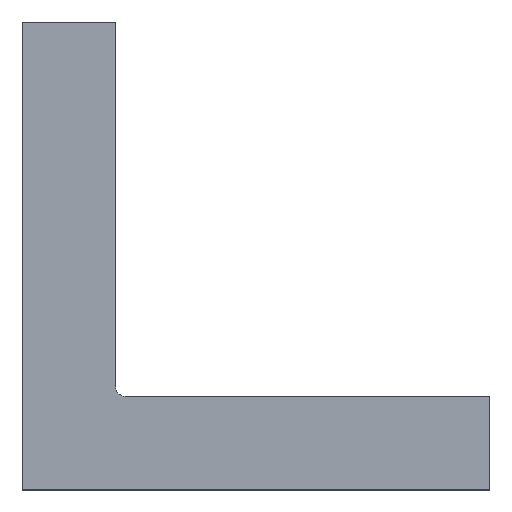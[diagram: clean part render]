
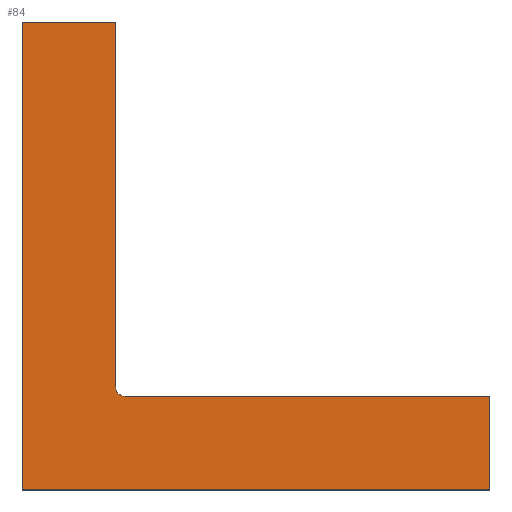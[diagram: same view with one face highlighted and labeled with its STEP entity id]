
A CAD part, top view. The second image highlights one B-rep face of the part: STEP entity #84.
In plain terms, the highlighted planar face has unit normal (0, 0, 1).
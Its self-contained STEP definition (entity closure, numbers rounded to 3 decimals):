
#5 = ORIENTED_EDGE ( 'NONE', *, *, #290, .T. ) ;
#7 = VERTEX_POINT ( 'NONE', #80 ) ;
#8 = VERTEX_POINT ( 'NONE', #33 ) ;
#11 = DIRECTION ( 'NONE',  ( 0., 0., -1. ) ) ;
#17 = DIRECTION ( 'NONE',  ( -1., 0., 0. ) ) ;
#30 = ORIENTED_EDGE ( 'NONE', *, *, #217, .T. ) ;
#33 = CARTESIAN_POINT ( 'NONE',  ( 20., 22., 30. ) ) ;
#38 = CARTESIAN_POINT ( 'NONE',  ( 22., 20., 30. ) ) ;
#43 = ORIENTED_EDGE ( 'NONE', *, *, #315, .T. ) ;
#44 = PLANE ( 'NONE',  #71 ) ;
#55 = VECTOR ( 'NONE', #331, 1000. ) ;
#64 = ORIENTED_EDGE ( 'NONE', *, *, #226, .T. ) ;
#68 = DIRECTION ( 'NONE',  ( -1., 0., 0. ) ) ;
#69 = CARTESIAN_POINT ( 'NONE',  ( 0., 0., 30. ) ) ;
#71 = AXIS2_PLACEMENT_3D ( 'NONE', #222, #11, #68 ) ;
#80 = CARTESIAN_POINT ( 'NONE',  ( 100., 20., 30. ) ) ;
#83 = VECTOR ( 'NONE', #101, 1000. ) ;
#84 = ADVANCED_FACE ( 'NONE', ( #193 ), #44, .F. ) ;
#88 = VERTEX_POINT ( 'NONE', #303 ) ;
#90 = DIRECTION ( 'NONE',  ( 1., 0., 0. ) ) ;
#97 = CARTESIAN_POINT ( 'NONE',  ( 0., 100., 30. ) ) ;
#101 = DIRECTION ( 'NONE',  ( 0., 1., 0. ) ) ;
#104 = DIRECTION ( 'NONE',  ( 0., 1., 0. ) ) ;
#127 = LINE ( 'NONE', #251, #158 ) ;
#135 = ORIENTED_EDGE ( 'NONE', *, *, #191, .T. ) ;
#141 = VECTOR ( 'NONE', #90, 1000. ) ;
#142 = LINE ( 'NONE', #69, #228 ) ;
#158 = VECTOR ( 'NONE', #104, 1000. ) ;
#167 = LINE ( 'NONE', #248, #202 ) ;
#173 = CIRCLE ( 'NONE', #337, 2. ) ;
#174 = CARTESIAN_POINT ( 'NONE',  ( 22., 22., 30. ) ) ;
#177 = CARTESIAN_POINT ( 'NONE',  ( 20., 100., 30. ) ) ;
#191 = EDGE_CURVE ( 'NONE', #322, #329, #142, .T. ) ;
#193 = FACE_OUTER_BOUND ( 'NONE', #244, .T. ) ;
#198 = EDGE_CURVE ( 'NONE', #7, #233, #167, .T. ) ;
#200 = DIRECTION ( 'NONE',  ( -1., 0., 0. ) ) ;
#202 = VECTOR ( 'NONE', #17, 1000. ) ;
#212 = ORIENTED_EDGE ( 'NONE', *, *, #266, .T. ) ;
#217 = EDGE_CURVE ( 'NONE', #273, #322, #223, .T. ) ;
#219 = ORIENTED_EDGE ( 'NONE', *, *, #198, .T. ) ;
#222 = CARTESIAN_POINT ( 'NONE',  ( 0., 100., 30. ) ) ;
#223 = LINE ( 'NONE', #97, #55 ) ;
#224 = CARTESIAN_POINT ( 'NONE',  ( 0., 0., 30. ) ) ;
#226 = EDGE_CURVE ( 'NONE', #329, #88, #250, .T. ) ;
#228 = VECTOR ( 'NONE', #242, 1000. ) ;
#233 = VERTEX_POINT ( 'NONE', #38 ) ;
#242 = DIRECTION ( 'NONE',  ( 0., -1., 0. ) ) ;
#244 = EDGE_LOOP ( 'NONE', ( #135, #64, #5, #219, #212, #43, #30 ) ) ;
#248 = CARTESIAN_POINT ( 'NONE',  ( 20., 20., 30. ) ) ;
#250 = LINE ( 'NONE', #224, #141 ) ;
#251 = CARTESIAN_POINT ( 'NONE',  ( 20., 100., 30. ) ) ;
#254 = CARTESIAN_POINT ( 'NONE',  ( 100., 0., 30. ) ) ;
#255 = DIRECTION ( 'NONE',  ( 0., 0., -1. ) ) ;
#266 = EDGE_CURVE ( 'NONE', #233, #8, #173, .T. ) ;
#273 = VERTEX_POINT ( 'NONE', #177 ) ;
#283 = CARTESIAN_POINT ( 'NONE',  ( 0., 0., 30. ) ) ;
#285 = CARTESIAN_POINT ( 'NONE',  ( 0., 100., 30. ) ) ;
#290 = EDGE_CURVE ( 'NONE', #88, #7, #335, .T. ) ;
#303 = CARTESIAN_POINT ( 'NONE',  ( 100., 0., 30. ) ) ;
#315 = EDGE_CURVE ( 'NONE', #8, #273, #127, .T. ) ;
#322 = VERTEX_POINT ( 'NONE', #285 ) ;
#329 = VERTEX_POINT ( 'NONE', #283 ) ;
#331 = DIRECTION ( 'NONE',  ( -1., 0., 0. ) ) ;
#335 = LINE ( 'NONE', #254, #83 ) ;
#337 = AXIS2_PLACEMENT_3D ( 'NONE', #174, #255, #200 ) ;
